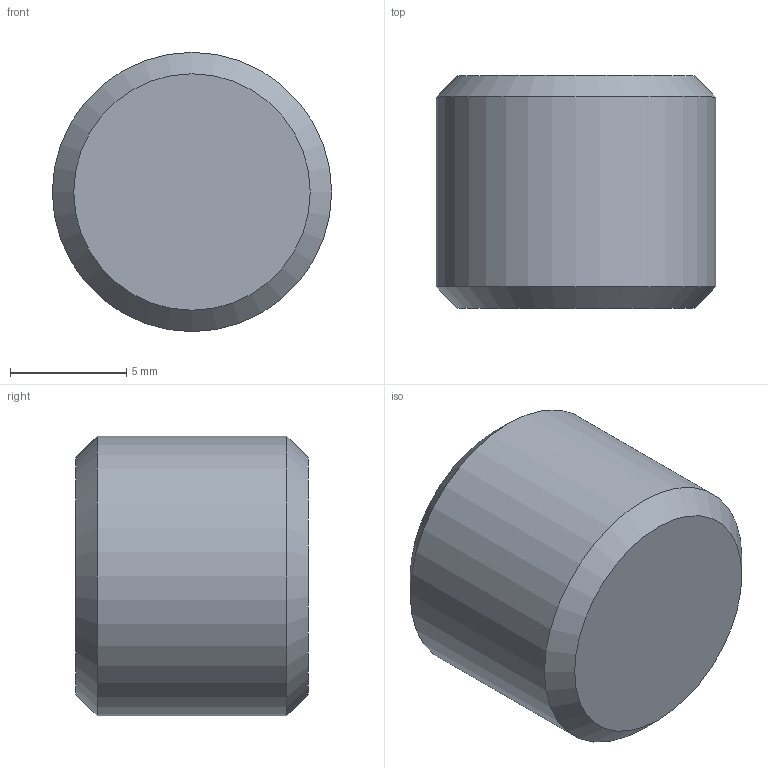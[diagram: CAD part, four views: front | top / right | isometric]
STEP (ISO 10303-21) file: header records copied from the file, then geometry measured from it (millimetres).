
FILE_DESCRIPTION( ( 'STEP AP203' ), '1' );
FILE_NAME( 'C:/Temp/Ganter_Step_05_03_2020/data/3_2/gn252_5/gn_252_5_prb/Stainless Steel-Blanking plug GN 252.5-M12x1,5-PRB.stp', '2020-03-13T05:26:43', ( 'License CC BY-ND 4.0' ), ( 'CADENAS' ), ' ', 'PARTsolutions', ' ' );
FILE_SCHEMA( ( 'CONFIG_CONTROL_DESIGN' ) );
Length unit declared in the file: millimetre
Products named in the file (1): _Stainless Steel-Blanking plug GN 252.5-M12x1,5-PRB
Bounding box: 12 x 10 x 12 mm (x, y, z)
Volume: 855 mm3; surface area: 721.3 mm2
Topology: 1 solids, 1 shells, 19 faces, 42 edges, 25 vertices
Faces by surface type: plane 14, cone 3, cylinder 2
Full cylindrical faces by diameter (mm): 6 x1, 12 x1
Entity records: 520 total; most frequent: DIRECTION 86, CARTESIAN_POINT 79, ORIENTED_EDGE 70, EDGE_CURVE 35, AXIS2_PLACEMENT_3D 31, EDGE_LOOP 24, VERTEX_POINT 24, LINE 24
